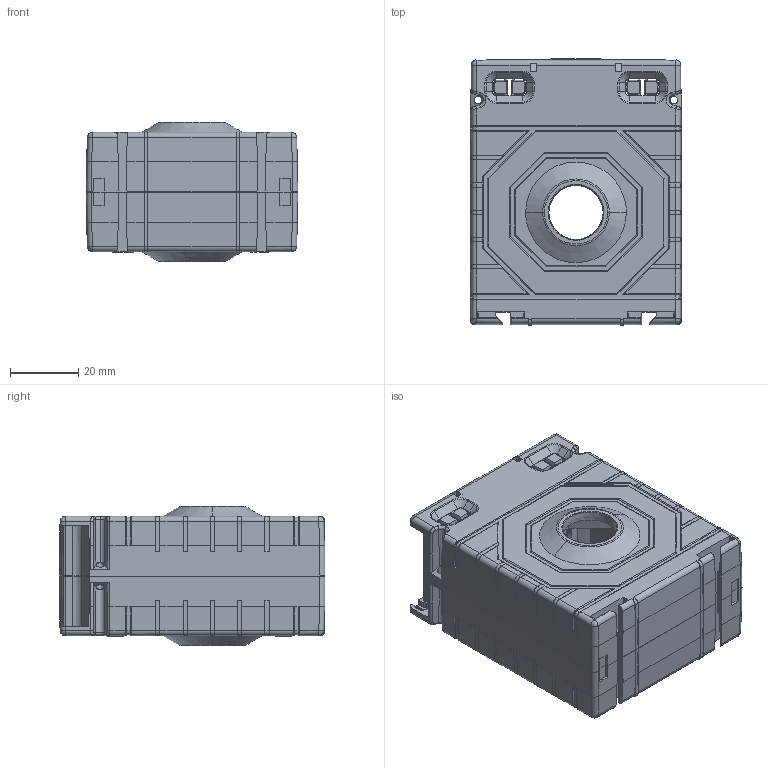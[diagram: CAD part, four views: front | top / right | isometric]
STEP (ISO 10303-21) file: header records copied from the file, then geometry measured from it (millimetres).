
FILE_DESCRIPTION (( 'STEP AP203' ), '1' );
FILE_NAME ('CTWW.STEP', '2022-12-02T13:46:34', ( '' ), ( '' ), 'SwSTEP 2.0', 'SolidWorks 2022', '' );
FILE_SCHEMA (( 'CONFIG_CONTROL_DESIGN' ));
Length unit declared in the file: millimetre
Products named in the file (1): CTWW
Bounding box: 62 x 78 x 41 mm (x, y, z)
Surface area: 28420.7 mm2 (no closed solid volume)
Topology: 0 solids, 12 shells, 1197 faces, 3536 edges, 2326 vertices
Faces by surface type: plane 687, cylinder 304, bspline 126, cone 80
Entity records: 54441 total; most frequent: CARTESIAN_POINT 25939, ORIENTED_EDGE 6646, DIRECTION 4451, EDGE_CURVE 3537, VERTEX_POINT 2326, VECTOR 1899, LINE 1899, B_SPLINE_CURVE_WITH_KNOTS 1375
